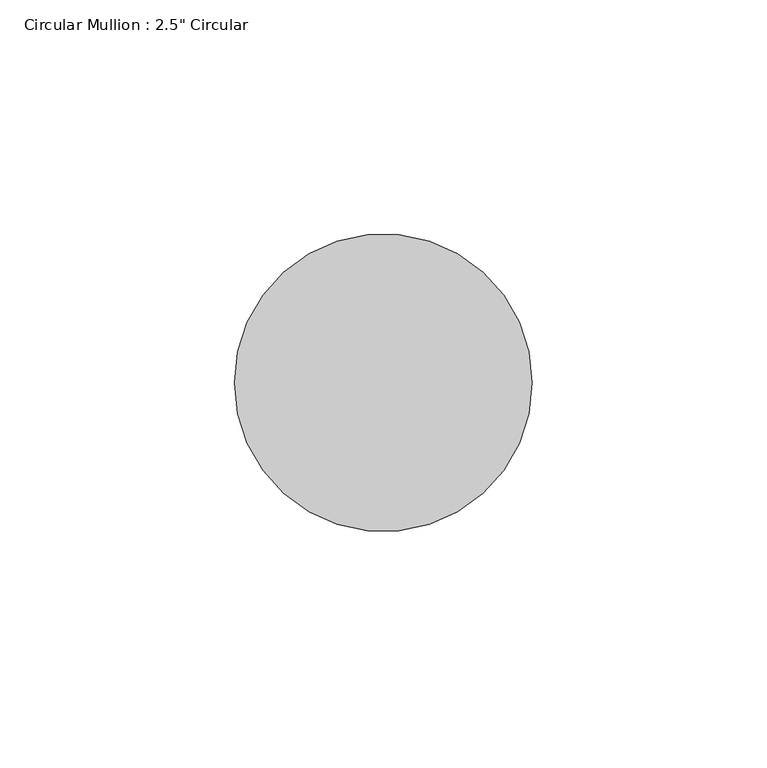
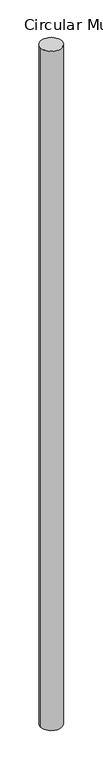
"""IFC4 building model written with IfcOpenShell, lengths in millimetres: member geometry."""

from ifc_helpers import new_model, si_unit, point, frame, origin, origin_2d, place, context, project, spatial, circle_curve, trimmed, segment, composite_curve, outline, extrude, source, transform, mapped, element, save


def member_b69ffe92(model_context):
    return source(origin(), model_context, "Body", "SweptSolid", [
        extrude(outline(composite_curve([segment(trimmed(circle_curve(origin_2d(), 31.75), [point((31.75, 0.0))], [point((-31.75, 0.0))], False, "CARTESIAN"), True, "CONTINUOUS"), segment(trimmed(circle_curve(origin_2d(), 31.75), [point((-31.75, 0.0))], [point((31.75, 0.0))], False, "CARTESIAN"), True, "CONTINUOUS")], self_intersect=False)), frame((0.0, 0.0, -2161.9335864), z_axis=(0.0, 0.0, 1.0), x_axis=(1.0, 0.0, 0.0)), (0.0, 0.0, 1.0), 2161.9335864),
    ])


if __name__ == "__main__":
    model = new_model("IFC4")
    model_context = context("Model", 3, world=origin())
    ifc_project = project(units=[si_unit("LENGTHUNIT", "METRE", prefix="MILLI")], contexts=[model_context])
    site = spatial("IfcSite", under=ifc_project)
    building = spatial("IfcBuilding", under=site)
    placement = place(None, origin())
    member_shape = member_b69ffe92(model_context)
    element("IfcMember", 1, ObjectType="Circular Mullion : 2.5\" Circular", at=placement, inside=building, context=model_context, shape_type="MappedRepresentation", body=[
        mapped(member_shape, transform((0.0, 0.0, 0.0), x_axis=(1.0, 0.0, 0.0), y_axis=(0.0, 1.0, 0.0), z_axis=(0.0, 0.0, 1.0))),
    ])
    save(model, "model.ifc")
